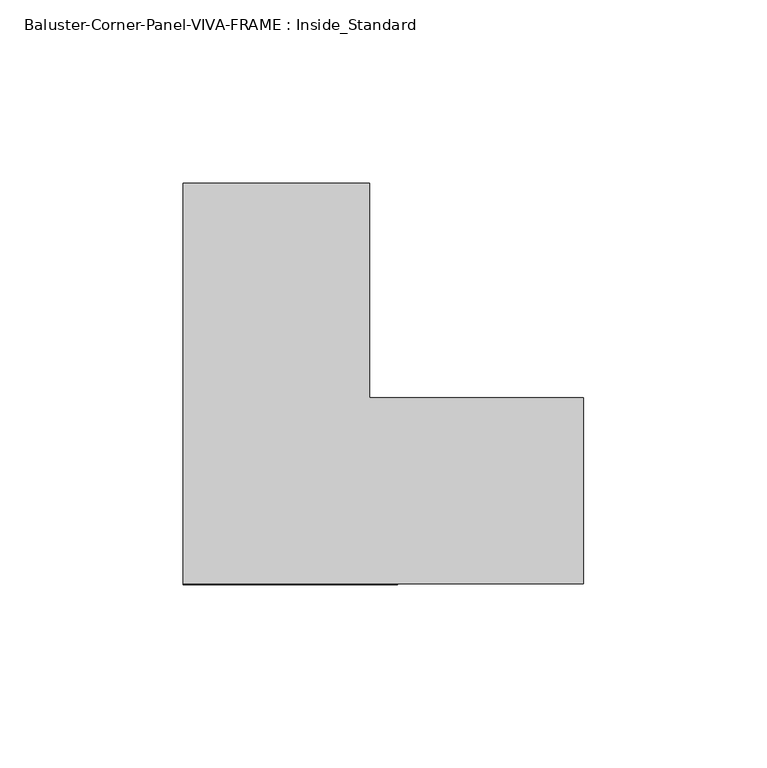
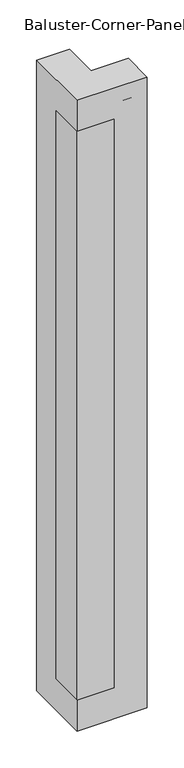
"""IFC4 building model written with IfcOpenShell, lengths in millimetres: railing geometry, Baluster-Corner-Panel-VIVA-FRAME : Inside_Standard."""

from ifc_helpers import new_model, si_unit, frame, origin, place, context, project, spatial, polyline, outline, extrude, faceted_brep, source, transform, mapped, element, save


def baluster_corner_panel_viva_frame_inside_standard_88f3c48e(model_context):
    return source(origin(), model_context, "Body", "SolidModel", [
        faceted_brep([(0.0, 109.22, 76.4512), (0.0, 109.22, 1117.6), (50.8, 109.22, 1117.6), (50.8, 109.22, 76.4512), (0.0, 0.0, 127.2512), (0.0, 58.42, 127.2512), (0.0, 58.42, 1066.8), (0.0, 0.0, 1066.8), (0.0, 0.0, 1117.6), (0.0, 0.0, 76.4512), (109.22, 0.0, 76.4512), (109.22, 0.0, 1117.6), (58.42, 0.0, 1066.8), (58.42, 0.0, 127.2512), (109.22, 50.8, 76.4512), (109.22, 50.8, 1117.6), (50.8, 50.8, 1117.6), (50.8, 50.8, 1111.6056), (50.8, 103.2256, 1111.6056), (50.8, 103.2256, 82.4456), (50.8, 50.8, 82.4456), (50.8, 50.8, 76.4512), (103.2256, 50.8, 1111.6056), (103.2256, 19.9898, 1111.6056), (19.9898, 19.9898, 1111.6056), (19.9898, 103.2256, 1111.6056), (19.9898, 19.9898, 1066.8), (19.9898, 58.42, 1066.8), (19.9898, 58.42, 127.2512), (19.9898, 19.9898, 127.2512), (19.9898, 19.9898, 82.4456), (19.9898, 103.2256, 82.4456), (58.42, 19.9898, 1066.8), (103.2256, 50.8, 82.4456), (103.2256, 19.9898, 82.4456), (58.42, 19.9898, 127.2512)], [[[0, 1, 2, 3]], [[4, 5, 6, 7, 8, 1, 0, 9]], [[4, 9, 10, 11, 8, 7, 12, 13]], [[14, 15, 11, 10]], [[16, 17, 18, 19, 20, 21, 3, 2]], [[17, 22, 23, 24, 25, 18]], [[24, 26, 27, 28, 29, 30, 31, 25]], [[12, 7, 6, 27, 26, 32]], [[2, 1, 8, 11, 15, 16]], [[17, 16, 15, 14, 21, 20, 33, 22]], [[26, 24, 23, 34, 30, 29, 35, 32]], [[21, 14, 10, 9, 0, 3]], [[34, 23, 22, 33]], [[12, 32, 35, 13]], [[27, 6, 5, 28]], [[18, 25, 31, 19]], [[4, 13, 35, 29, 28, 5]], [[20, 19, 31, 30, 34, 33]]]),
        extrude(outline(polyline([(84.22, 0.0), (0.0, 0.0), (0.0, 84.22), (3.0, 84.22), (3.0, 3.0), (84.22, 3.0), (84.22, 0.0)])), frame((0.0, 0.0, 101.4512), z_axis=(0.0, 0.0, 1.0), x_axis=(1.0, 0.0, 0.0)), (0.0, 0.0, 1.0), 991.1488),
    ])


if __name__ == "__main__":
    model = new_model("IFC4")
    model_context = context("Model", 3, world=origin())
    ifc_project = project(units=[si_unit("LENGTHUNIT", "METRE", prefix="MILLI")], contexts=[model_context])
    site = spatial("IfcSite", under=ifc_project)
    building = spatial("IfcBuilding", under=site)
    placement = place(None, origin())
    baluster_corner_panel_viva_frame_inside_standard_shape = baluster_corner_panel_viva_frame_inside_standard_88f3c48e(model_context)
    element("IfcRailing", 1, ObjectType="Baluster-Corner-Panel-VIVA-FRAME : Inside_Standard", at=placement, inside=building, context=model_context, shape_type="MappedRepresentation", body=[
        mapped(baluster_corner_panel_viva_frame_inside_standard_shape, transform((0.0, 0.0, 0.0), x_axis=(1.0, 0.0, 0.0), y_axis=(0.0, 1.0, 0.0), z_axis=(0.0, 0.0, 1.0))),
    ])
    save(model, "model.ifc")
